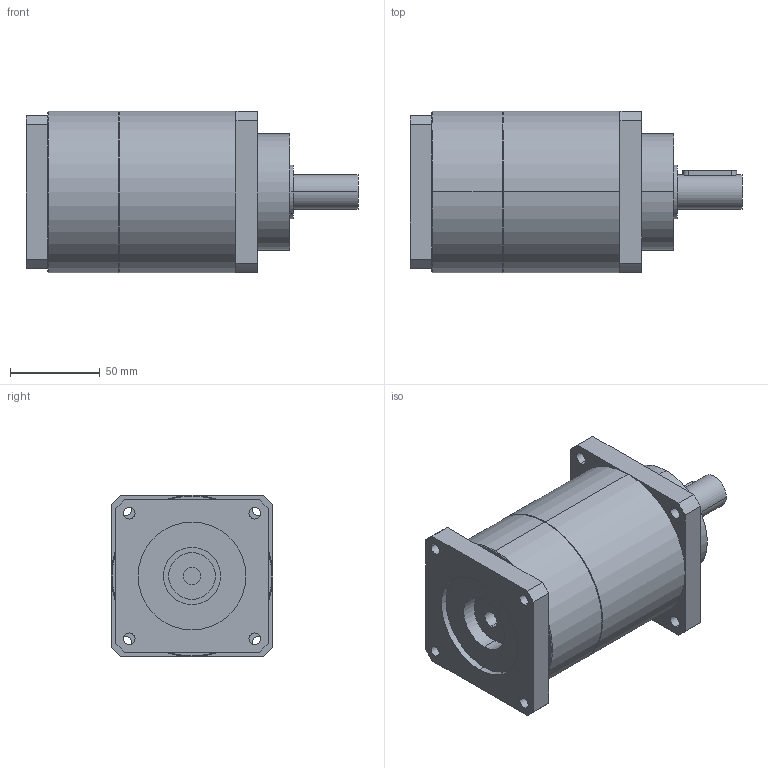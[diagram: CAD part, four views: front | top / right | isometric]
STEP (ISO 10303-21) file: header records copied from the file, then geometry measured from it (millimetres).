
FILE_DESCRIPTION(('CoCreate Modeling STEP Export'),'2;1');
FILE_NAME('GPT90_ig-9-12-16-20-25-28-35-40-50-70-100_19_B5T_9.525_P36.stp','2015-02-04T11:35:28',(''),(''),'CoCreate Modeling STEP processor for AP214 (Solid Model)','CoCreate Modeling 16.00C 25-Feb-2009 (C) Parametric Technology GmbH','');
FILE_SCHEMA(('AUTOMOTIVE_DESIGN { 1 0 10303 214 1 1 1 1 }'));
Length unit declared in the file: millimetre
Products named in the file (2): GPT90_ig-9-12-16-20-25-28-35-40-50-70-100_19_B5T_9.525_P36
Assembly tree (1 placements, depth 2):
  GPT90_ig-9-12-16-20-25-28-35-40-50-70-100_19_B5T_9.525_P36
    GPT90_ig-9-12-16-20-25-28-35-40-50-70-100_19_B5T_9.525_P36
Bounding box: 185 x 90 x 90 mm (x, y, z)
Volume: 900843.1 mm3; surface area: 66971.1 mm2
Topology: 1 solids, 1 shells, 84 faces, 225 edges, 152 vertices
Faces by surface type: cylinder 42, plane 38, cone 4
Entity records: 2707 total; most frequent: CARTESIAN_POINT 758, ORIENTED_EDGE 450, DIRECTION 322, EDGE_CURVE 225, VERTEX_POINT 152, AXIS2_PLACEMENT_3D 113, EDGE_LOOP 109, VECTOR 96
